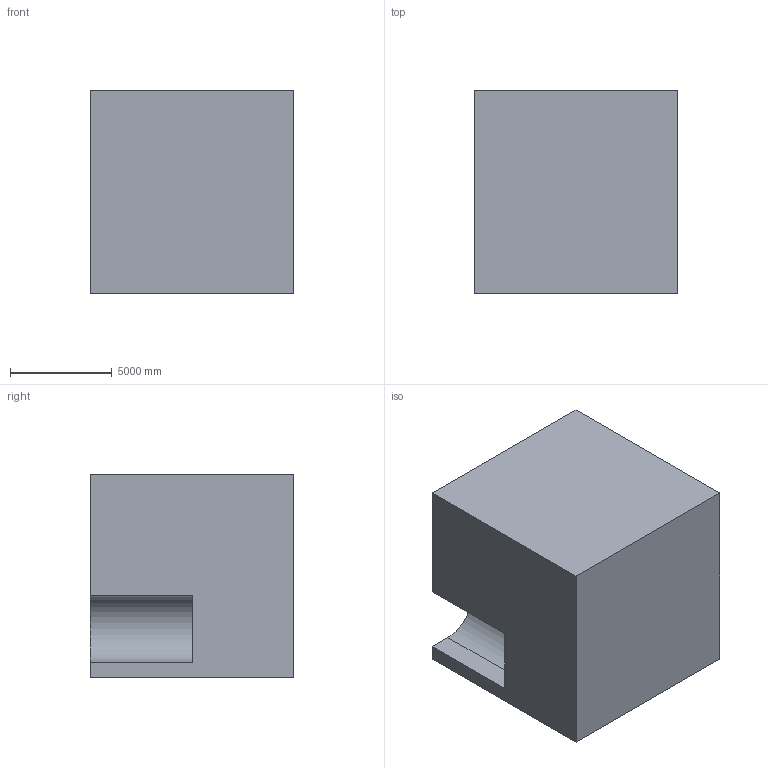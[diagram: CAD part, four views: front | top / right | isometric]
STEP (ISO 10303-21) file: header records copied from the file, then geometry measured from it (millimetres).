
FILE_DESCRIPTION (( 'STEP AP203' ), '1' );
FILE_NAME ('109.STEP', '2022-09-06T15:06:19', ( 'user' ), ( '' ), 'SwSTEP 2.0', 'SolidWorks 2021', '' );
FILE_SCHEMA (( 'CONFIG_CONTROL_DESIGN' ));
Length unit declared in the file: centimetre
Products named in the file (1): 109
Bounding box: 10000 x 10000 x 10000 mm (x, y, z)
Volume: 939731632632.5 mm3; surface area: 639051323.6 mm2
Topology: 1 solids, 1 shells, 14 faces, 33 edges, 22 vertices
Faces by surface type: plane 13, cylinder 1
Entity records: 476 total; most frequent: CARTESIAN_POINT 70, ORIENTED_EDGE 66, DIRECTION 65, EDGE_CURVE 33, LINE 31, VECTOR 31, VERTEX_POINT 22, AXIS2_PLACEMENT_3D 17
